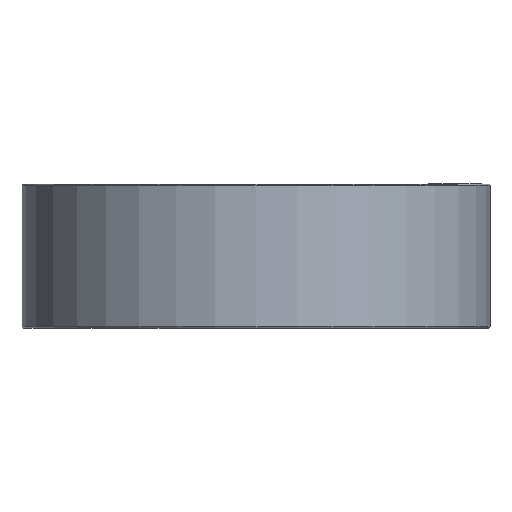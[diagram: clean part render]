
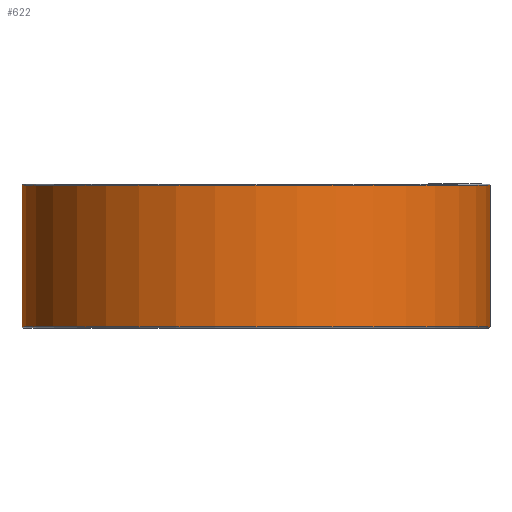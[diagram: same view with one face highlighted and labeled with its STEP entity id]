
A CAD part, front view. The second image highlights one B-rep face of the part: STEP entity #622.
In plain terms, the highlighted cylindrical face has radius 195 mm (diameter 390 mm), a partial arc.
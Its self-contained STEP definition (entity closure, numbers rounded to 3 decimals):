
#72=CARTESIAN_POINT('',(0.,0.,-119.));
#73=DIRECTION('',(0.,0.,1.));
#74=DIRECTION('',(-1.,0.,0.));
#75=AXIS2_PLACEMENT_3D('',#72,#73,#74);
#87=DIRECTION('',(0.,0.,-1.));
#88=VECTOR('',#87,118.);
#89=CARTESIAN_POINT('',(195.,0.,-1.));
#90=LINE('',#89,#88);
#106=CARTESIAN_POINT('',(0.,0.,-1.));
#107=DIRECTION('',(0.,0.,-1.));
#108=DIRECTION('',(1.,0.,0.));
#109=AXIS2_PLACEMENT_3D('',#106,#107,#108);
#227=DIRECTION('',(0.,0.,-1.));
#228=VECTOR('',#227,118.);
#229=CARTESIAN_POINT('',(-195.,0.,-1.));
#230=LINE('',#229,#228);
#247=CARTESIAN_POINT('',(-195.,0.,-1.));
#248=CARTESIAN_POINT('',(-195.,0.,-119.));
#249=VERTEX_POINT('',#247);
#250=VERTEX_POINT('',#248);
#251=CARTESIAN_POINT('',(195.,0.,-1.));
#252=CARTESIAN_POINT('',(195.,0.,-119.));
#253=VERTEX_POINT('',#251);
#254=VERTEX_POINT('',#252);
#611=CARTESIAN_POINT('',(0.,0.,-60.));
#612=DIRECTION('',(0.,0.,-1.));
#613=DIRECTION('',(1.,0.,0.));
#614=AXIS2_PLACEMENT_3D('',#611,#612,#613);
#615=CYLINDRICAL_SURFACE('',#614,195.);
#616=ORIENTED_EDGE('',*,*,#452,.F.);
#617=ORIENTED_EDGE('',*,*,#423,.T.);
#618=ORIENTED_EDGE('',*,*,#392,.F.);
#619=ORIENTED_EDGE('',*,*,#420,.F.);
#620=EDGE_LOOP('',(#616,#617,#618,#619));
#621=FACE_OUTER_BOUND('',#620,.F.);
#622=ADVANCED_FACE('',(#621),#615,.T.);
#76=CIRCLE('',#75,195.);
#110=CIRCLE('',#109,195.);
#392=EDGE_CURVE('',#250,#254,#76,.T.);
#420=EDGE_CURVE('',#249,#250,#230,.T.);
#423=EDGE_CURVE('',#253,#254,#90,.T.);
#452=EDGE_CURVE('',#253,#249,#110,.T.);
